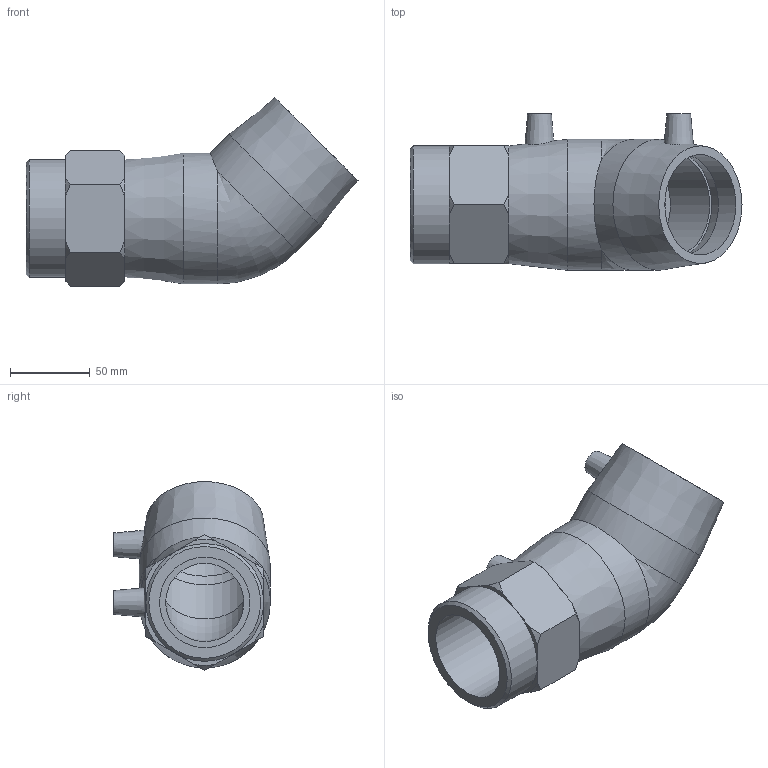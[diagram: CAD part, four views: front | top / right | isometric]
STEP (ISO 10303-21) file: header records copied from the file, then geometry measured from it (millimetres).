
FILE_DESCRIPTION(/* description */ ('PLASSON 45° ELBOW TRANSITION FEMALE 63-2"'),/* implementation_level */ '2;1');
FILE_NAME(/* name */ 'C:\Dropbox\KIMPROJECTS-Inventor\99-16-3568-Processing\ElectroFusion Fittings\02.02.20\493604\493604063020N.ipt.stp',/* time_stamp */ '2020-02-02T12:20:40+02:00',/* author */ ('KIM'),/* organization */ (''),/* preprocessor_version */ 'ST-DEVELOPER v15.6',/* originating_system */ 'Autodesk Inventor 2015',/* authorisation */ '');
FILE_SCHEMA (('AUTOMOTIVE_DESIGN { 1 0 10303 214 3 1 1 }'));
Length unit declared in the file: millimetre
Products named in the file (1): 493604063020N
Bounding box: 208 x 98 x 118.37 mm (x, y, z)
Volume: 488038 mm3; surface area: 99830.4 mm2
Topology: 1 solids, 2 shells, 63 faces, 145 edges, 93 vertices
Faces by surface type: plane 28, cone 19, cylinder 14, bspline 1, torus 1
Full cylindrical faces by diameter (mm): 4 x2, 10 x2, 49 x1, 56.656 x1, 63 x4, 73.8 x1, 82 x2
Entity records: 1625 total; most frequent: CARTESIAN_POINT 389, DIRECTION 261, ORIENTED_EDGE 212, AXIS2_PLACEMENT_3D 118, EDGE_CURVE 106, EDGE_LOOP 99, VERTEX_POINT 79, FACE_OUTER_BOUND 63
